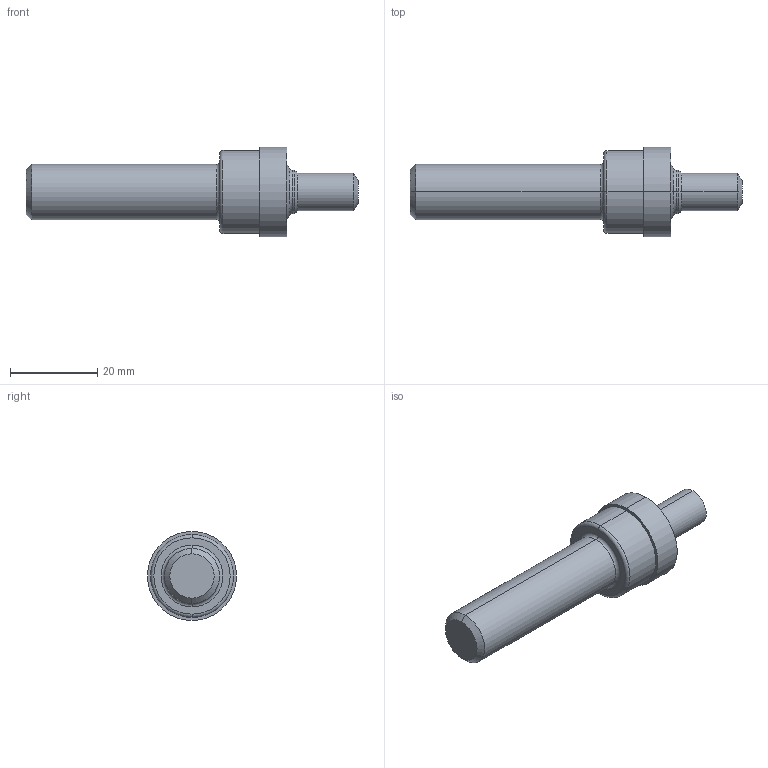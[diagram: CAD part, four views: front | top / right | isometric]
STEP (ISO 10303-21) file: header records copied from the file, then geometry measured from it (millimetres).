
FILE_DESCRIPTION (( 'STEP AP203' ), '1' );
FILE_NAME ('AS5202-03R.STEP', '2024-06-19T18:43:40', ( '' ), ( '' ), 'SwSTEP 2.0', 'SolidWorks 2022', '' );
FILE_SCHEMA (( 'CONFIG_CONTROL_DESIGN' ));
Length unit declared in the file: inch
Products named in the file (1): AS5202-03R
Bounding box: 76.2 x 20.45 x 20.45 mm (x, y, z)
Volume: 11252.7 mm3; surface area: 3712 mm2
Topology: 1 solids, 1 shells, 29 faces, 56 edges, 32 vertices
Faces by surface type: cylinder 10, cone 8, torus 6, plane 5
Entity records: 819 total; most frequent: DIRECTION 154, CARTESIAN_POINT 118, ORIENTED_EDGE 112, AXIS2_PLACEMENT_3D 68, EDGE_CURVE 56, CIRCLE 38, VERTEX_POINT 32, EDGE_LOOP 32
